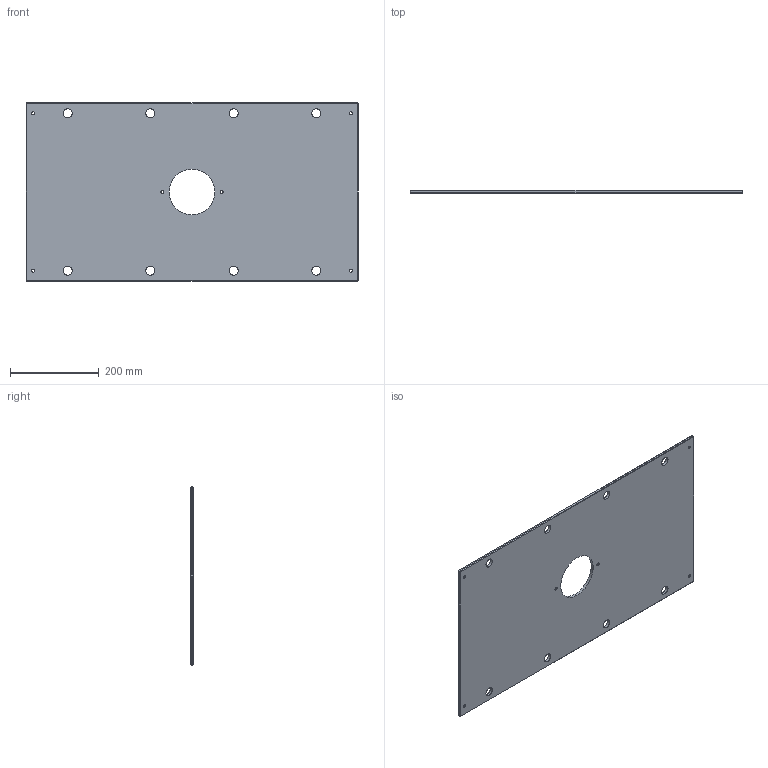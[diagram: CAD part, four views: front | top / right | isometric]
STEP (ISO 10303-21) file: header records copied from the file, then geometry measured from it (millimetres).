
FILE_DESCRIPTION (( 'STEP AP214' ), '1' );
FILE_NAME ('ME-0619-CH-1629.STEP', '2020-02-11T17:11:39', ( '' ), ( '' ), 'SwSTEP 2.0', 'SolidWorks 2018', '' );
FILE_SCHEMA (( 'AUTOMOTIVE_DESIGN' ));
Length unit declared in the file: inch
Products named in the file (1): ME-0619-CH-1629
Bounding box: 746.12 x 6.35 x 400.05 mm (x, y, z)
Volume: 1820154 mm3; surface area: 591886 mm2
Topology: 1 solids, 1 shells, 68 faces, 162 edges, 96 vertices
Faces by surface type: cylinder 30, plane 26, cone 12
Entity records: 2050 total; most frequent: DIRECTION 372, CARTESIAN_POINT 327, ORIENTED_EDGE 324, EDGE_CURVE 162, AXIS2_PLACEMENT_3D 141, EDGE_LOOP 98, VERTEX_POINT 96, VECTOR 90
